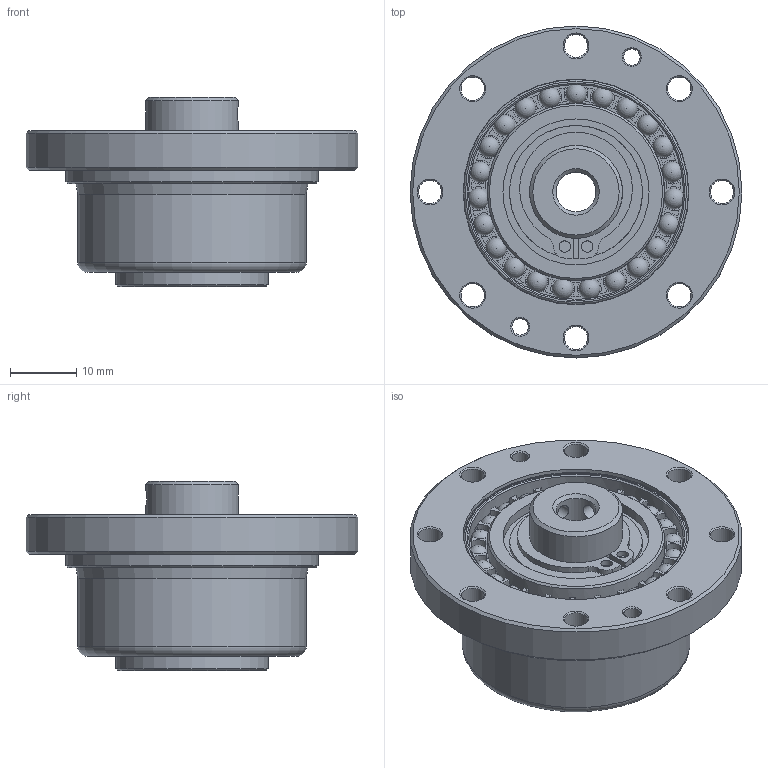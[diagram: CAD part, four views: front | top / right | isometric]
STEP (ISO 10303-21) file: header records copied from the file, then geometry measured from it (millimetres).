
FILE_DESCRIPTION(/* description */ (''),/* implementation_level */ '2;1');
FILE_NAME(/* name */ '\\hiwin.tw\dfs\TB00F\研發課二組\\X2\6A5F5BC67D1A\X0\\97.同仁共享區 (機密級)\H11\\X2\6B236021\X0\\2023專案追蹤\2.型錄\\X2\6A21578B\X0\\DGC-CO\DGC-14-XX-CO.stp',/* time_stamp */ '2024-10-22T11:44:25+08:00',/* author */ ('ted40524246.cheng'),/* organization */ (''),/* preprocessor_version */ 'ST-DEVELOPER v15.2',/* originating_system */ 'Autodesk Inventor 2014',/* authorisation */ '');
FILE_SCHEMA (('AUTOMOTIVE_DESIGN { 1 0 10303 214 3 1 1 }'));
Length unit declared in the file: centimetre
Products named in the file (1): DGC-14-XX-CO
Bounding box: 50 x 50 x 28.5 mm (x, y, z)
Volume: 16914.4 mm3; surface area: 12021.8 mm2
Topology: 1 solids, 1 shells, 328 faces, 821 edges, 506 vertices
Faces by surface type: cylinder 136, plane 68, cone 50, torus 49, sphere 23, bspline 2
Full cylindrical faces by diameter (mm): 1.7 x2, 2.459 x6, 3.5 x8, 4.5 x6, 6 x1, 11 x1, 13.4 x1, 14 x1, 20 x1, 22 x1, 23 x1, 25 x1, 26.67 x1, 32.37 x1, 33.89 x2, 34.39 x1, 38 x1, 50 x1
Entity records: 9472 total; most frequent: DIRECTION 1786, CARTESIAN_POINT 1759, ORIENTED_EDGE 1350, AXIS2_PLACEMENT_3D 836, EDGE_CURVE 629, CIRCLE 509, EDGE_LOOP 496, VERTEX_POINT 429
